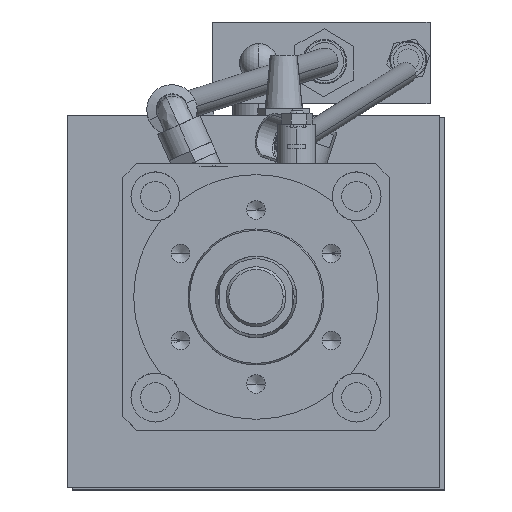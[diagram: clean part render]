
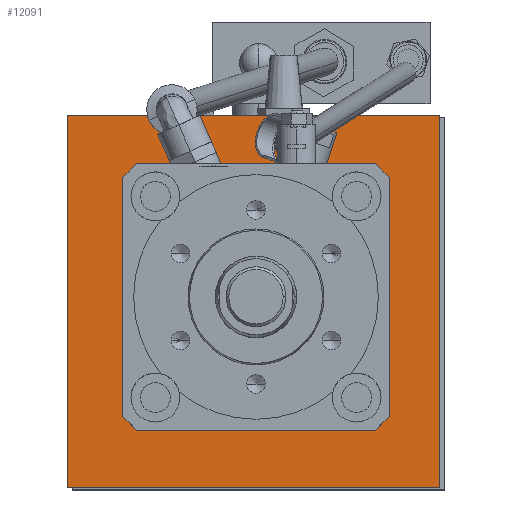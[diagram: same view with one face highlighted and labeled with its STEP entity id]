
A CAD part, top view. The second image highlights one B-rep face of the part: STEP entity #12091.
In plain terms, the highlighted planar face has unit normal (0, 0, 1).
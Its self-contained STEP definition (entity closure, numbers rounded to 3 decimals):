
#31 = EDGE_CURVE ( 'NONE', #20218, #21170, #5415, .T. ) ;
#1080 = FACE_OUTER_BOUND ( 'NONE', #13924, .T. ) ;
#3062 = ORIENTED_EDGE ( 'NONE', *, *, #11845, .F. ) ;
#3141 = EDGE_CURVE ( 'NONE', #10711, #15872, #15277, .T. ) ;
#3794 = CARTESIAN_POINT ( 'NONE',  ( 752.268, -2193.176, -967.357 ) ) ;
#3907 = LINE ( 'NONE', #26058, #16172 ) ;
#5264 = PLANE ( 'NONE',  #9832 ) ;
#5415 = LINE ( 'NONE', #17658, #5844 ) ;
#5844 = VECTOR ( 'NONE', #17410, 1000. ) ;
#5882 = DIRECTION ( 'NONE',  ( 0., 1., 0. ) ) ;
#6459 = CARTESIAN_POINT ( 'NONE',  ( 752.268, -2056.176, -967.357 ) ) ;
#7860 = EDGE_CURVE ( 'NONE', #15872, #20218, #3907, .T. ) ;
#8230 = CARTESIAN_POINT ( 'NONE',  ( 752.268, -2056.176, -967.357 ) ) ;
#8948 = CARTESIAN_POINT ( 'NONE',  ( 615.268, -2056.176, -967.357 ) ) ;
#9432 = CARTESIAN_POINT ( 'NONE',  ( 752.268, -2193.176, -967.357 ) ) ;
#9832 = AXIS2_PLACEMENT_3D ( 'NONE', #19490, #11650, #13403 ) ;
#10711 = VERTEX_POINT ( 'NONE', #3794 ) ;
#11650 = DIRECTION ( 'NONE',  ( 0., 0., -1. ) ) ;
#11845 = EDGE_CURVE ( 'NONE', #21170, #10711, #18206, .T. ) ;
#12091 = ADVANCED_FACE ( 'NONE', ( #1080 ), #5264, .F. ) ;
#12719 = VECTOR ( 'NONE', #15688, 1000. ) ;
#13403 = DIRECTION ( 'NONE',  ( -1., 0., 0. ) ) ;
#13924 = EDGE_LOOP ( 'NONE', ( #3062, #18060, #21561, #25818 ) ) ;
#15277 = LINE ( 'NONE', #9432, #12719 ) ;
#15688 = DIRECTION ( 'NONE',  ( -1., 0., 0. ) ) ;
#15872 = VERTEX_POINT ( 'NONE', #17001 ) ;
#16172 = VECTOR ( 'NONE', #5882, 1000. ) ;
#16353 = DIRECTION ( 'NONE',  ( 0., -1., 0. ) ) ;
#17001 = CARTESIAN_POINT ( 'NONE',  ( 615.268, -2193.176, -967.357 ) ) ;
#17410 = DIRECTION ( 'NONE',  ( 1., 0., 0. ) ) ;
#17658 = CARTESIAN_POINT ( 'NONE',  ( 752.268, -2056.176, -967.357 ) ) ;
#18060 = ORIENTED_EDGE ( 'NONE', *, *, #31, .F. ) ;
#18206 = LINE ( 'NONE', #8230, #20382 ) ;
#19490 = CARTESIAN_POINT ( 'NONE',  ( 697.268, -2638.459, -967.357 ) ) ;
#20218 = VERTEX_POINT ( 'NONE', #8948 ) ;
#20382 = VECTOR ( 'NONE', #16353, 1000. ) ;
#21170 = VERTEX_POINT ( 'NONE', #6459 ) ;
#21561 = ORIENTED_EDGE ( 'NONE', *, *, #7860, .F. ) ;
#25818 = ORIENTED_EDGE ( 'NONE', *, *, #3141, .F. ) ;
#26058 = CARTESIAN_POINT ( 'NONE',  ( 615.268, -2056.176, -967.357 ) ) ;
